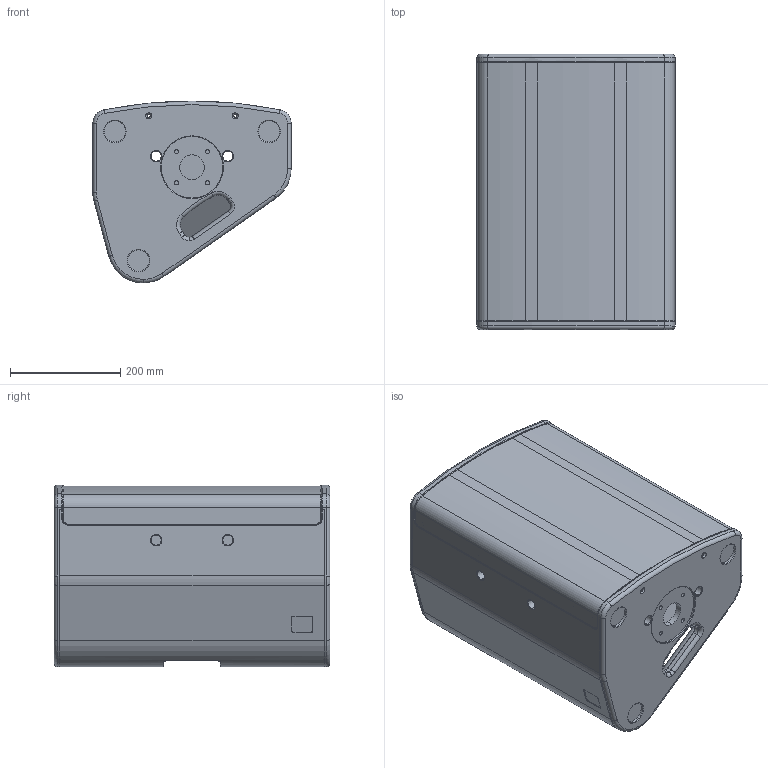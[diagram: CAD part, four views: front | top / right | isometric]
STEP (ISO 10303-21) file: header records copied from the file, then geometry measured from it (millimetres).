
FILE_DESCRIPTION (( 'STEP AP203' ), '1' );
FILE_NAME ('SEEBURG_X6.STEP', '2018-09-20T08:40:17', ( 'Michl' ), ( '' ), 'SwSTEP 2.0', 'SolidWorks 2009', '' );
FILE_SCHEMA (( 'CONFIG_CONTROL_DESIGN' ));
Length unit declared in the file: millimetre
Products named in the file (1): SEEBURG_X6
Bounding box: 360 x 500 x 330 mm (x, y, z)
Volume: 7871779.6 mm3; surface area: 1653657.3 mm2
Topology: 8 solids, 8 shells, 508 faces, 1287 edges, 800 vertices
Faces by surface type: cylinder 222, plane 178, cone 66, torus 36, bspline 6
Entity records: 15876 total; most frequent: CARTESIAN_POINT 2982, DIRECTION 2847, ORIENTED_EDGE 2570, EDGE_CURVE 1285, AXIS2_PLACEMENT_3D 1075, VERTEX_POINT 800, LINE 697, VECTOR 697
